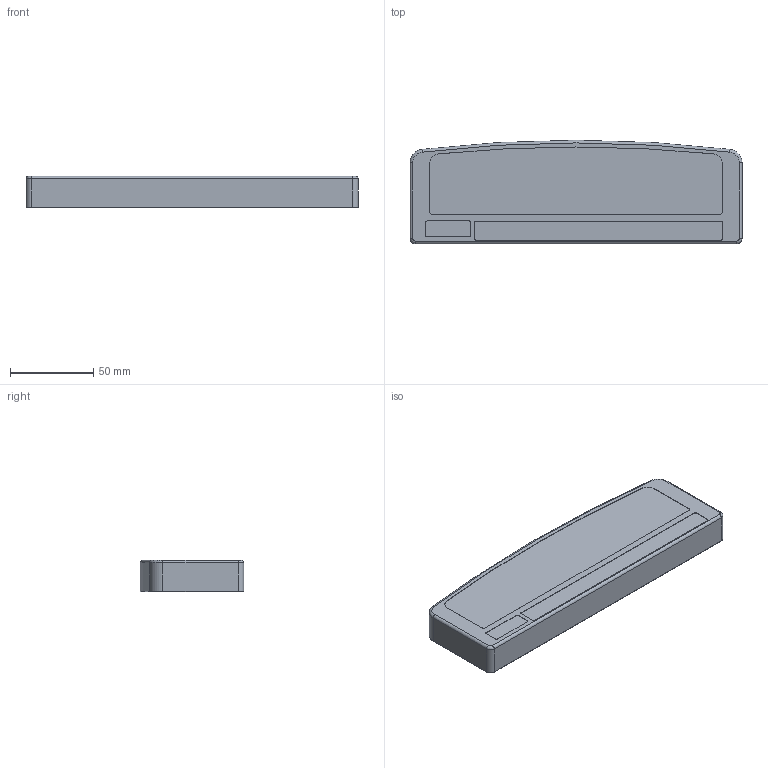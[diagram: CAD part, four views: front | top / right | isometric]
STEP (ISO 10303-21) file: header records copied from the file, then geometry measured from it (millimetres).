
FILE_DESCRIPTION(('Open CASCADE Model'),'2;1');
FILE_NAME('Open CASCADE Shape Model','2026-09-26T16:24:15',('Author'),( 'Open CASCADE'),'Open CASCADE STEP processor 7.9','Open CASCADE 7.9' ,'Unknown');
FILE_SCHEMA(('AUTOMOTIVE_DESIGN { 1 0 10303 214 1 1 1 1 }'));
Length unit declared in the file: millimetre
Products named in the file (1): Open CASCADE STEP translator 7.9 8
Bounding box: 200 x 62.33 x 18.97 mm (x, y, z)
Volume: 225188.5 mm3; surface area: 33371.8 mm2
Topology: 1 solids, 1 shells, 53 faces, 128 edges, 80 vertices
Faces by surface type: cylinder 24, plane 19, torus 8, revolution 2
Entity records: 3135 total; most frequent: CARTESIAN_POINT 716, DIRECTION 409, ORIENTED_EDGE 256, PCURVE 256, DEFINITIONAL_REPRESENTATION 256, LINE 150, VECTOR 150, B_SPLINE_CURVE_WITH_KNOTS 138
